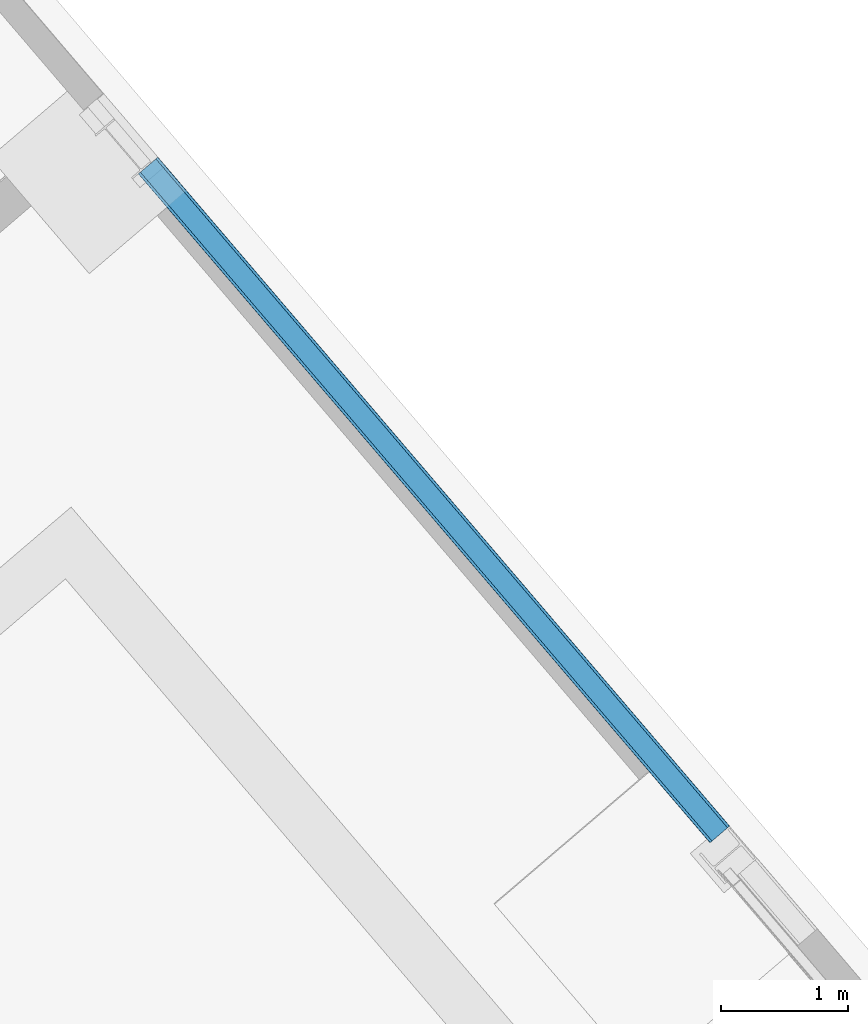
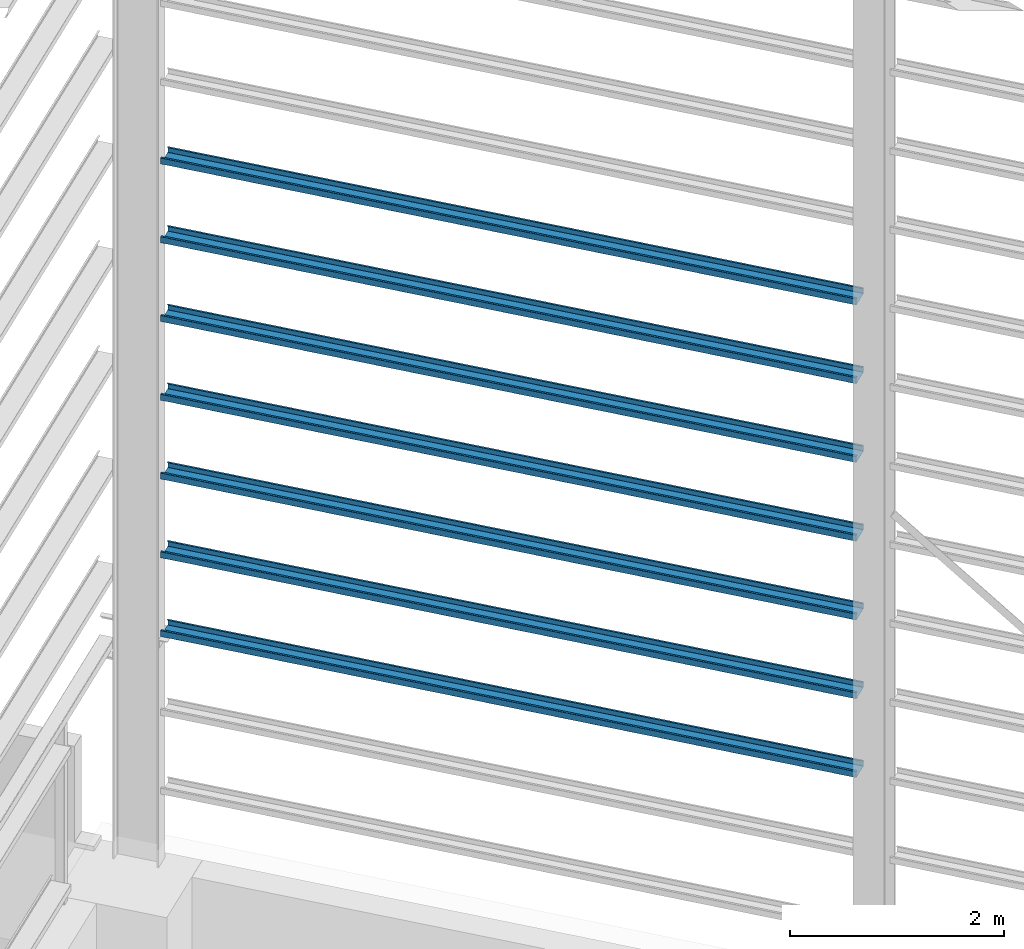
# One storey, part 30 of 41: 7 beams, 1 element without a shape of its own.
"""IFC2X3 building model written with IfcOpenShell, lengths in millimetres."""

from ifc_helpers import new_model, entity, si_unit, converted_unit, derived_unit, direction, frame, frame_2d, origin, place, context, subcontext, project, spatial, polyline, circle_curve, parameter, trimmed, segment, composite_curve, outline, extrude, material, type_object, element, aggregate, save


model = new_model("IFC2X3")

# Units and contexts
model_context = context("Model", 3, precision=0.01, world=origin(), true_north=direction((6.123031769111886e-17, 1.0)))
body_context = subcontext(model_context, "Body", "Model", "MODEL_VIEW")
ifc_project = project(units=[si_unit("LENGTHUNIT", "METRE", prefix="MILLI"), si_unit("AREAUNIT", "SQUARE_METRE"), si_unit("VOLUMEUNIT", "CUBIC_METRE"), converted_unit("PLANEANGLEUNIT", "DEGREE", entity("IfcRatioMeasure", 0.017453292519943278), si_unit("PLANEANGLEUNIT", "RADIAN"), dimensions=[0, 0, 0, 0, 0, 0, 0]), si_unit("MASSUNIT", "GRAM", prefix="KILO"), derived_unit("MASSDENSITYUNIT", [(si_unit("MASSUNIT", "GRAM", prefix="KILO"), 1), (si_unit("LENGTHUNIT", "METRE"), -3)]), derived_unit("MOMENTOFINERTIAUNIT", [(si_unit("LENGTHUNIT", "METRE"), 4)]), si_unit("TIMEUNIT", "SECOND"), si_unit("FREQUENCYUNIT", "HERTZ"), si_unit("THERMODYNAMICTEMPERATUREUNIT", "DEGREE_CELSIUS"), derived_unit("THERMALTRANSMITTANCEUNIT", [(si_unit("MASSUNIT", "GRAM", prefix="KILO"), 1), (si_unit("THERMODYNAMICTEMPERATUREUNIT", "KELVIN"), -1), (si_unit("TIMEUNIT", "SECOND"), -3)]), derived_unit("VOLUMETRICFLOWRATEUNIT", [(si_unit("LENGTHUNIT", "METRE"), 3), (si_unit("TIMEUNIT", "SECOND"), -1)]), derived_unit("MASSFLOWRATEUNIT", [(si_unit("MASSUNIT", "GRAM", prefix="KILO"), 1), (si_unit("TIMEUNIT", "SECOND"), -1)]), derived_unit("ROTATIONALFREQUENCYUNIT", [(si_unit("TIMEUNIT", "SECOND"), -1)]), si_unit("ELECTRICCURRENTUNIT", "AMPERE"), si_unit("ELECTRICVOLTAGEUNIT", "VOLT"), si_unit("POWERUNIT", "WATT"), si_unit("FORCEUNIT", "NEWTON", prefix="KILO"), si_unit("ILLUMINANCEUNIT", "LUX"), si_unit("LUMINOUSFLUXUNIT", "LUMEN"), si_unit("LUMINOUSINTENSITYUNIT", "CANDELA"), derived_unit("USERDEFINED", [(si_unit("MASSUNIT", "GRAM", prefix="KILO"), -1), (si_unit("LENGTHUNIT", "METRE"), -2), (si_unit("TIMEUNIT", "SECOND"), 3), (si_unit("LUMINOUSFLUXUNIT", "LUMEN"), 1)]), derived_unit("SOUNDPOWERUNIT", [(si_unit("MASSUNIT", "GRAM", prefix="KILO"), 1), (si_unit("LENGTHUNIT", "METRE"), 2), (si_unit("TIMEUNIT", "SECOND"), -3)]), derived_unit("LINEARVELOCITYUNIT", [(si_unit("LENGTHUNIT", "METRE"), 1), (si_unit("TIMEUNIT", "SECOND"), -1)]), si_unit("PRESSUREUNIT", "PASCAL"), derived_unit("USERDEFINED", [(si_unit("LENGTHUNIT", "METRE"), -2), (si_unit("MASSUNIT", "GRAM", prefix="KILO"), 1), (si_unit("TIMEUNIT", "SECOND"), -2)]), derived_unit("LINEARFORCEUNIT", [(si_unit("MASSUNIT", "GRAM", prefix="KILO"), 1), (si_unit("LENGTHUNIT", "METRE"), 1), (si_unit("TIMEUNIT", "SECOND"), -2), (si_unit("LENGTHUNIT", "METRE"), -1)]), derived_unit("PLANARFORCEUNIT", [(si_unit("MASSUNIT", "GRAM", prefix="KILO"), 1), (si_unit("LENGTHUNIT", "METRE"), 1), (si_unit("TIMEUNIT", "SECOND"), -2), (si_unit("LENGTHUNIT", "METRE"), -2)])], contexts=[model_context])

# Site, building, storey
site_placement = place(None, frame((962.4174930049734, -6014.433753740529, 0.0), z_axis=(0.0, 0.0, 1.0), x_axis=(0.7601792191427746, 0.649713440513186, 0.0)))
site = spatial("IfcSite", under=ifc_project, at=site_placement, Name="Default", CompositionType="ELEMENT")
building_placement = place(site_placement, origin())
building = spatial("IfcBuilding", under=site, at=building_placement, CompositionType="ELEMENT")
storey_placement = place(building_placement, origin())
storey = spatial("IfcBuildingStorey", under=building, at=storey_placement, Name="Datum", CompositionType="ELEMENT", Elevation=0.0)

# Assembly, beams
assembly_placement = place(building_placement, origin())
assembly = element("IfcElementAssembly", 1, at=assembly_placement, inside=storey, Name="Structural Beam System:Structural Beam System 1", ObjectType="Structural Beam System:Structural Beam System 1", AssemblyPlace="NOTDEFINED", PredefinedType="BEAM_GRID")
ifc_material = material(Name="Metal - Light Gauge")
beam_type = type_object("IfcBeamType", Name="ADSK_AUS_Light Gauge-Joists:C20015", PredefinedType="NOTDEFINED")
beam_1_placement = place(building_placement, frame((185748.56020470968, -3714.0905821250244, 7802.50358273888), z_axis=(0.0, 0.0, 1.0), x_axis=(0.0, 1.0, 0.0)))
beam_1 = element("IfcBeam", 2, at=beam_1_placement, type_object=beam_type, material=ifc_material, Name="ADSK_AUS_Light Gauge-Joists:C20015", ObjectType="ADSK_AUS_Light Gauge-Joists:C20015", context=body_context, shape_type="SweptSolid", body=[
    extrude(outline(composite_curve([segment(polyline([(-25.691849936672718, -101.50000000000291), (39.49184993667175, -101.50000000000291)]), True, "CONTINUOUS"), segment(trimmed(circle_curve(frame_2d((39.49184993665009, -98.8418499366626), x_axis=(0.0, -1.0)), 2.658150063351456), [parameter(0.0)], [parameter(89.99999999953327)], True, "PARAMETER"), True, "CONTINUOUS"), segment(polyline([(42.15000000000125, -98.8418499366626), (42.15000000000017, 98.84184993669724)]), True, "CONTINUOUS"), segment(trimmed(circle_curve(frame_2d((39.49184993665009, 98.84184993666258), x_axis=(1.0, 0.0)), 2.658150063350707), [parameter(0.0)], [parameter(89.99999999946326)], True, "PARAMETER"), True, "CONTINUOUS"), segment(polyline([(39.491849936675, 101.50000000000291), (-25.691849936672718, 101.50000000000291)]), True, "CONTINUOUS"), segment(trimmed(circle_curve(frame_2d((-25.691849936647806, 98.84184993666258), x_axis=(0.0, 1.0)), 2.658150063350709), [parameter(0.0)], [parameter(89.99999999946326)], True, "PARAMETER"), True, "CONTINUOUS"), segment(polyline([(-28.349999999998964, 98.84184993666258), (-28.349999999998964, 80.0)]), True, "CONTINUOUS"), segment(polyline([(-28.349999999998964, 80.0), (-26.849999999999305, 80.0)]), True, "CONTINUOUS"), segment(polyline([(-26.849999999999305, 80.0), (-26.849999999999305, 98.42934993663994)]), True, "CONTINUOUS"), segment(trimmed(circle_curve(frame_2d((-25.2793499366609, 98.4293499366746), x_axis=(-1.0, 0.0)), 1.570650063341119), [parameter(270.00000000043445)], [parameter(0.0)], True, "PARAMETER"), False, "CONTINUOUS"), segment(polyline([(-25.27934993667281, 100.0), (39.079349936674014, 100.0)]), True, "CONTINUOUS"), segment(trimmed(circle_curve(frame_2d((39.079349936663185, 98.4293499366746), x_axis=(0.0, 1.0)), 1.570650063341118), [parameter(270.00000000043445)], [parameter(0.0)], True, "PARAMETER"), False, "CONTINUOUS"), segment(polyline([(40.65000000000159, 98.4293499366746), (40.65000000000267, -98.4293499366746)]), True, "CONTINUOUS"), segment(trimmed(circle_curve(frame_2d((39.079349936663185, -98.4293499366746), x_axis=(1.0, 0.0)), 1.570650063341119), [parameter(270.00000000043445)], [parameter(0.0)], True, "PARAMETER"), False, "CONTINUOUS"), segment(polyline([(39.079349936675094, -100.0), (-25.27934993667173, -100.0)]), True, "CONTINUOUS"), segment(trimmed(circle_curve(frame_2d((-25.2793499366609, -98.4293499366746), x_axis=(0.0, -1.0)), 1.570650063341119), [parameter(270.00000000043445)], [parameter(0.0)], True, "PARAMETER"), False, "CONTINUOUS"), segment(polyline([(-26.849999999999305, -98.4293499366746), (-26.849999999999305, -80.0)]), True, "CONTINUOUS"), segment(polyline([(-26.849999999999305, -80.0), (-28.349999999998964, -80.0)]), True, "CONTINUOUS"), segment(polyline([(-28.349999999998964, -80.0), (-28.349999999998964, -98.84184993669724)]), True, "CONTINUOUS"), segment(trimmed(circle_curve(frame_2d((-25.691849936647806, -98.8418499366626), x_axis=(-1.0, 0.0)), 2.6581500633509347), [parameter(0.0)], [parameter(89.99999999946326)], True, "PARAMETER"), True, "CONTINUOUS")], self_intersect=False)), frame((13.03124998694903, -101.50000000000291, 42.15000000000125), z_axis=(1.0, 0.0, 0.0), x_axis=(0.0, 0.0, -1.0)), (0.0, 0.0, 1.0), 6906.0),
])
beam_2_placement = place(building_placement, frame((185748.56020470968, -3714.0905821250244, 6902.50358273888), z_axis=(0.0, 0.0, 1.0), x_axis=(0.0, 1.0, 0.0)))
beam_2 = element("IfcBeam", 3, at=beam_2_placement, type_object=beam_type, material=ifc_material, Name="ADSK_AUS_Light Gauge-Joists:C20015", ObjectType="ADSK_AUS_Light Gauge-Joists:C20015", context=body_context, shape_type="SweptSolid", body=[
    extrude(outline(composite_curve([segment(polyline([(-25.691849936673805, -101.50000000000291), (39.49184993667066, -101.50000000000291)]), True, "CONTINUOUS"), segment(trimmed(circle_curve(frame_2d((39.491849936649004, -98.8418499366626), x_axis=(0.0, -1.0)), 2.658150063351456), [parameter(0.0)], [parameter(89.99999999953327)], True, "PARAMETER"), True, "CONTINUOUS"), segment(polyline([(42.15000000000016, -98.8418499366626), (42.14999999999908, 98.84184993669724)]), True, "CONTINUOUS"), segment(trimmed(circle_curve(frame_2d((39.491849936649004, 98.84184993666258), x_axis=(1.0, 0.0)), 2.658150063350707), [parameter(0.0)], [parameter(89.99999999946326)], True, "PARAMETER"), True, "CONTINUOUS"), segment(polyline([(39.491849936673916, 101.50000000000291), (-25.691849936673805, 101.50000000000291)]), True, "CONTINUOUS"), segment(trimmed(circle_curve(frame_2d((-25.691849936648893, 98.84184993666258), x_axis=(0.0, 1.0)), 2.658150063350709), [parameter(0.0)], [parameter(89.99999999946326)], True, "PARAMETER"), True, "CONTINUOUS"), segment(polyline([(-28.35000000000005, 98.84184993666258), (-28.35000000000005, 80.0)]), True, "CONTINUOUS"), segment(polyline([(-28.35000000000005, 80.0), (-26.850000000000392, 80.0)]), True, "CONTINUOUS"), segment(polyline([(-26.850000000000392, 80.0), (-26.850000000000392, 98.42934993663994)]), True, "CONTINUOUS"), segment(trimmed(circle_curve(frame_2d((-25.279349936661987, 98.4293499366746), x_axis=(-1.0, 0.0)), 1.570650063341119), [parameter(270.00000000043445)], [parameter(0.0)], True, "PARAMETER"), False, "CONTINUOUS"), segment(polyline([(-25.279349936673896, 100.0), (39.079349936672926, 100.0)]), True, "CONTINUOUS"), segment(trimmed(circle_curve(frame_2d((39.0793499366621, 98.4293499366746), x_axis=(0.0, 1.0)), 1.570650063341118), [parameter(270.00000000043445)], [parameter(0.0)], True, "PARAMETER"), False, "CONTINUOUS"), segment(polyline([(40.6500000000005, 98.4293499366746), (40.65000000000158, -98.4293499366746)]), True, "CONTINUOUS"), segment(trimmed(circle_curve(frame_2d((39.0793499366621, -98.4293499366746), x_axis=(1.0, 0.0)), 1.570650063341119), [parameter(270.00000000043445)], [parameter(0.0)], True, "PARAMETER"), False, "CONTINUOUS"), segment(polyline([(39.07934993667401, -100.0), (-25.279349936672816, -100.0)]), True, "CONTINUOUS"), segment(trimmed(circle_curve(frame_2d((-25.279349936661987, -98.4293499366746), x_axis=(0.0, -1.0)), 1.570650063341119), [parameter(270.00000000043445)], [parameter(0.0)], True, "PARAMETER"), False, "CONTINUOUS"), segment(polyline([(-26.850000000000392, -98.4293499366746), (-26.850000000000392, -80.0)]), True, "CONTINUOUS"), segment(polyline([(-26.850000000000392, -80.0), (-28.35000000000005, -80.0)]), True, "CONTINUOUS"), segment(polyline([(-28.35000000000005, -80.0), (-28.35000000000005, -98.84184993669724)]), True, "CONTINUOUS"), segment(trimmed(circle_curve(frame_2d((-25.691849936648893, -98.8418499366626), x_axis=(-1.0, 0.0)), 2.6581500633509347), [parameter(0.0)], [parameter(89.99999999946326)], True, "PARAMETER"), True, "CONTINUOUS")], self_intersect=False)), frame((13.03124998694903, -101.50000000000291, 42.15000000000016), z_axis=(1.0, 0.0, 0.0), x_axis=(0.0, 0.0, -1.0)), (0.0, 0.0, 1.0), 6906.0),
])
beam_3_placement = place(building_placement, frame((185748.56020470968, -3714.0905821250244, 6002.50358273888), z_axis=(0.0, 0.0, 1.0), x_axis=(0.0, 1.0, 0.0)))
beam_3 = element("IfcBeam", 4, at=beam_3_placement, type_object=beam_type, material=ifc_material, Name="ADSK_AUS_Light Gauge-Joists:C20015", ObjectType="ADSK_AUS_Light Gauge-Joists:C20015", context=body_context, shape_type="SweptSolid", body=[
    extrude(outline(composite_curve([segment(polyline([(-25.691849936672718, -101.50000000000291), (39.49184993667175, -101.50000000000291)]), True, "CONTINUOUS"), segment(trimmed(circle_curve(frame_2d((39.49184993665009, -98.8418499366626), x_axis=(0.0, -1.0)), 2.658150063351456), [parameter(0.0)], [parameter(89.99999999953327)], True, "PARAMETER"), True, "CONTINUOUS"), segment(polyline([(42.15000000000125, -98.8418499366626), (42.15000000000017, 98.84184993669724)]), True, "CONTINUOUS"), segment(trimmed(circle_curve(frame_2d((39.49184993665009, 98.84184993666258), x_axis=(1.0, 0.0)), 2.658150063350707), [parameter(0.0)], [parameter(89.99999999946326)], True, "PARAMETER"), True, "CONTINUOUS"), segment(polyline([(39.491849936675, 101.50000000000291), (-25.691849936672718, 101.50000000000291)]), True, "CONTINUOUS"), segment(trimmed(circle_curve(frame_2d((-25.691849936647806, 98.84184993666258), x_axis=(0.0, 1.0)), 2.658150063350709), [parameter(0.0)], [parameter(89.99999999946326)], True, "PARAMETER"), True, "CONTINUOUS"), segment(polyline([(-28.349999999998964, 98.84184993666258), (-28.349999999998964, 80.0)]), True, "CONTINUOUS"), segment(polyline([(-28.349999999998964, 80.0), (-26.849999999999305, 80.0)]), True, "CONTINUOUS"), segment(polyline([(-26.849999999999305, 80.0), (-26.849999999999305, 98.42934993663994)]), True, "CONTINUOUS"), segment(trimmed(circle_curve(frame_2d((-25.2793499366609, 98.4293499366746), x_axis=(-1.0, 0.0)), 1.570650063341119), [parameter(270.00000000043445)], [parameter(0.0)], True, "PARAMETER"), False, "CONTINUOUS"), segment(polyline([(-25.27934993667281, 100.0), (39.079349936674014, 100.0)]), True, "CONTINUOUS"), segment(trimmed(circle_curve(frame_2d((39.079349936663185, 98.4293499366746), x_axis=(0.0, 1.0)), 1.570650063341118), [parameter(270.00000000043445)], [parameter(0.0)], True, "PARAMETER"), False, "CONTINUOUS"), segment(polyline([(40.65000000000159, 98.4293499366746), (40.65000000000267, -98.4293499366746)]), True, "CONTINUOUS"), segment(trimmed(circle_curve(frame_2d((39.079349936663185, -98.4293499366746), x_axis=(1.0, 0.0)), 1.570650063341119), [parameter(270.00000000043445)], [parameter(0.0)], True, "PARAMETER"), False, "CONTINUOUS"), segment(polyline([(39.079349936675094, -100.0), (-25.27934993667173, -100.0)]), True, "CONTINUOUS"), segment(trimmed(circle_curve(frame_2d((-25.2793499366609, -98.4293499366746), x_axis=(0.0, -1.0)), 1.570650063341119), [parameter(270.00000000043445)], [parameter(0.0)], True, "PARAMETER"), False, "CONTINUOUS"), segment(polyline([(-26.849999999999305, -98.4293499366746), (-26.849999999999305, -80.0)]), True, "CONTINUOUS"), segment(polyline([(-26.849999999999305, -80.0), (-28.349999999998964, -80.0)]), True, "CONTINUOUS"), segment(polyline([(-28.349999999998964, -80.0), (-28.349999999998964, -98.84184993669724)]), True, "CONTINUOUS"), segment(trimmed(circle_curve(frame_2d((-25.691849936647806, -98.8418499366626), x_axis=(-1.0, 0.0)), 2.6581500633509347), [parameter(0.0)], [parameter(89.99999999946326)], True, "PARAMETER"), True, "CONTINUOUS")], self_intersect=False)), frame((13.03124998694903, -101.50000000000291, 42.15000000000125), z_axis=(1.0, 0.0, 0.0), x_axis=(0.0, 0.0, -1.0)), (0.0, 0.0, 1.0), 6906.0),
])
beam_4_placement = place(building_placement, frame((185748.56020470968, -3714.0905821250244, 5102.50358273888), z_axis=(0.0, 0.0, 1.0), x_axis=(0.0, 1.0, 0.0)))
beam_4 = element("IfcBeam", 5, at=beam_4_placement, type_object=beam_type, material=ifc_material, Name="ADSK_AUS_Light Gauge-Joists:C20015", ObjectType="ADSK_AUS_Light Gauge-Joists:C20015", context=body_context, shape_type="SweptSolid", body=[
    extrude(outline(composite_curve([segment(polyline([(-25.691849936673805, -101.50000000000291), (39.49184993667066, -101.50000000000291)]), True, "CONTINUOUS"), segment(trimmed(circle_curve(frame_2d((39.491849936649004, -98.8418499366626), x_axis=(0.0, -1.0)), 2.658150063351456), [parameter(0.0)], [parameter(89.99999999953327)], True, "PARAMETER"), True, "CONTINUOUS"), segment(polyline([(42.15000000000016, -98.8418499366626), (42.14999999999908, 98.84184993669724)]), True, "CONTINUOUS"), segment(trimmed(circle_curve(frame_2d((39.491849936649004, 98.84184993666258), x_axis=(1.0, 0.0)), 2.658150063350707), [parameter(0.0)], [parameter(89.99999999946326)], True, "PARAMETER"), True, "CONTINUOUS"), segment(polyline([(39.491849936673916, 101.50000000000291), (-25.691849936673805, 101.50000000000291)]), True, "CONTINUOUS"), segment(trimmed(circle_curve(frame_2d((-25.691849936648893, 98.84184993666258), x_axis=(0.0, 1.0)), 2.658150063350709), [parameter(0.0)], [parameter(89.99999999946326)], True, "PARAMETER"), True, "CONTINUOUS"), segment(polyline([(-28.35000000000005, 98.84184993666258), (-28.35000000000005, 80.0)]), True, "CONTINUOUS"), segment(polyline([(-28.35000000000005, 80.0), (-26.850000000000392, 80.0)]), True, "CONTINUOUS"), segment(polyline([(-26.850000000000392, 80.0), (-26.850000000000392, 98.42934993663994)]), True, "CONTINUOUS"), segment(trimmed(circle_curve(frame_2d((-25.279349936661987, 98.4293499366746), x_axis=(-1.0, 0.0)), 1.570650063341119), [parameter(270.00000000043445)], [parameter(0.0)], True, "PARAMETER"), False, "CONTINUOUS"), segment(polyline([(-25.279349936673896, 100.0), (39.079349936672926, 100.0)]), True, "CONTINUOUS"), segment(trimmed(circle_curve(frame_2d((39.0793499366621, 98.4293499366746), x_axis=(0.0, 1.0)), 1.570650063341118), [parameter(270.00000000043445)], [parameter(0.0)], True, "PARAMETER"), False, "CONTINUOUS"), segment(polyline([(40.6500000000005, 98.4293499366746), (40.65000000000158, -98.4293499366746)]), True, "CONTINUOUS"), segment(trimmed(circle_curve(frame_2d((39.0793499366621, -98.4293499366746), x_axis=(1.0, 0.0)), 1.570650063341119), [parameter(270.00000000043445)], [parameter(0.0)], True, "PARAMETER"), False, "CONTINUOUS"), segment(polyline([(39.07934993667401, -100.0), (-25.279349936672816, -100.0)]), True, "CONTINUOUS"), segment(trimmed(circle_curve(frame_2d((-25.279349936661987, -98.4293499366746), x_axis=(0.0, -1.0)), 1.570650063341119), [parameter(270.00000000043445)], [parameter(0.0)], True, "PARAMETER"), False, "CONTINUOUS"), segment(polyline([(-26.850000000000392, -98.4293499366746), (-26.850000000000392, -80.0)]), True, "CONTINUOUS"), segment(polyline([(-26.850000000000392, -80.0), (-28.35000000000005, -80.0)]), True, "CONTINUOUS"), segment(polyline([(-28.35000000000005, -80.0), (-28.35000000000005, -98.84184993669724)]), True, "CONTINUOUS"), segment(trimmed(circle_curve(frame_2d((-25.691849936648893, -98.8418499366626), x_axis=(-1.0, 0.0)), 2.6581500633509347), [parameter(0.0)], [parameter(89.99999999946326)], True, "PARAMETER"), True, "CONTINUOUS")], self_intersect=False)), frame((13.03124998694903, -101.50000000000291, 42.15000000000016), z_axis=(1.0, 0.0, 0.0), x_axis=(0.0, 0.0, -1.0)), (0.0, 0.0, 1.0), 6906.0),
])
beam_5_placement = place(building_placement, frame((185748.56020470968, -3714.0905821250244, 4202.50358273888), z_axis=(0.0, 0.0, 1.0), x_axis=(0.0, 1.0, 0.0)))
beam_5 = element("IfcBeam", 6, at=beam_5_placement, type_object=beam_type, material=ifc_material, Name="ADSK_AUS_Light Gauge-Joists:C20015", ObjectType="ADSK_AUS_Light Gauge-Joists:C20015", context=body_context, shape_type="SweptSolid", body=[
    extrude(outline(composite_curve([segment(polyline([(-25.691849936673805, -101.50000000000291), (39.49184993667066, -101.50000000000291)]), True, "CONTINUOUS"), segment(trimmed(circle_curve(frame_2d((39.491849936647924, -98.8418499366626), x_axis=(0.0, -1.0)), 2.6581500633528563), [parameter(0.0)], [parameter(89.99999999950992)], True, "PARAMETER"), True, "CONTINUOUS"), segment(polyline([(42.1500000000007, -98.8418499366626), (42.15000000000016, 98.84184993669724)]), True, "CONTINUOUS"), segment(trimmed(circle_curve(frame_2d((39.491849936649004, 98.84184993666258), x_axis=(1.0, 0.0)), 2.658150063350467), [parameter(0.0)], [parameter(89.99999999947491)], True, "PARAMETER"), True, "CONTINUOUS"), segment(polyline([(39.49184993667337, 101.50000000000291), (-25.691849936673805, 101.50000000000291)]), True, "CONTINUOUS"), segment(trimmed(circle_curve(frame_2d((-25.691849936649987, 98.84184993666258), x_axis=(0.0, 1.0)), 2.6581500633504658), [parameter(0.0)], [parameter(89.99999999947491)], True, "PARAMETER"), True, "CONTINUOUS"), segment(polyline([(-28.35000000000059, 98.84184993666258), (-28.35000000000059, 80.0)]), True, "CONTINUOUS"), segment(polyline([(-28.35000000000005, 80.0), (-26.849999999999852, 80.0)]), True, "CONTINUOUS"), segment(polyline([(-26.849999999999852, 80.0), (-26.849999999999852, 98.42934993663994)]), True, "CONTINUOUS"), segment(trimmed(circle_curve(frame_2d((-25.279349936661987, 98.4293499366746), x_axis=(-1.0, 0.0)), 1.570650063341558), [parameter(270.0000000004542)], [parameter(0.0)], True, "PARAMETER"), False, "CONTINUOUS"), segment(polyline([(-25.279349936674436, 100.0), (39.079349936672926, 100.0)]), True, "CONTINUOUS"), segment(trimmed(circle_curve(frame_2d((39.07934993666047, 98.4293499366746), x_axis=(0.0, 1.0)), 1.57065006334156), [parameter(270.0000000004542)], [parameter(0.0)], True, "PARAMETER"), False, "CONTINUOUS"), segment(polyline([(40.64999999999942, 98.4293499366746), (40.64999999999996, -98.4293499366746)]), True, "CONTINUOUS"), segment(trimmed(circle_curve(frame_2d((39.07934993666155, -98.4293499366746), x_axis=(1.0, 0.0)), 1.5706500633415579), [parameter(270.0000000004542)], [parameter(0.0)], True, "PARAMETER"), False, "CONTINUOUS"), segment(polyline([(39.07934993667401, -100.0), (-25.279349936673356, -100.0)]), True, "CONTINUOUS"), segment(trimmed(circle_curve(frame_2d((-25.279349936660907, -98.4293499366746), x_axis=(0.0, -1.0)), 1.5706500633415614), [parameter(270.0000000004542)], [parameter(0.0)], True, "PARAMETER"), False, "CONTINUOUS"), segment(polyline([(-26.849999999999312, -98.4293499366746), (-26.849999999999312, -80.0)]), True, "CONTINUOUS"), segment(polyline([(-26.849999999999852, -80.0), (-28.35000000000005, -80.0)]), True, "CONTINUOUS"), segment(polyline([(-28.35000000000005, -80.0), (-28.35000000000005, -98.84184993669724)]), True, "CONTINUOUS"), segment(trimmed(circle_curve(frame_2d((-25.691849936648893, -98.8418499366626), x_axis=(-1.0, 0.0)), 2.6581500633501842), [parameter(0.0)], [parameter(89.99999999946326)], True, "PARAMETER"), True, "CONTINUOUS")], self_intersect=False)), frame((13.03124998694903, -101.50000000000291, 42.15000000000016), z_axis=(1.0, 0.0, 0.0), x_axis=(0.0, 0.0, -1.0)), (0.0, 0.0, 1.0), 6906.0),
])
beam_6_placement = place(building_placement, frame((185748.56020470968, -3714.0905821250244, 3302.50358273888), z_axis=(0.0, 0.0, 1.0), x_axis=(0.0, 1.0, 0.0)))
beam_6 = element("IfcBeam", 7, at=beam_6_placement, type_object=beam_type, material=ifc_material, Name="ADSK_AUS_Light Gauge-Joists:C20015", ObjectType="ADSK_AUS_Light Gauge-Joists:C20015", context=body_context, shape_type="SweptSolid", body=[
    extrude(outline(composite_curve([segment(polyline([(-25.691849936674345, -101.50000000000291), (39.49184993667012, -101.50000000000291)]), True, "CONTINUOUS"), segment(trimmed(circle_curve(frame_2d((39.491849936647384, -98.8418499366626), x_axis=(0.0, -1.0)), 2.6581500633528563), [parameter(0.0)], [parameter(89.99999999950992)], True, "PARAMETER"), True, "CONTINUOUS"), segment(polyline([(42.15000000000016, -98.8418499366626), (42.14999999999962, 98.84184993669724)]), True, "CONTINUOUS"), segment(trimmed(circle_curve(frame_2d((39.491849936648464, 98.84184993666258), x_axis=(1.0, 0.0)), 2.658150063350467), [parameter(0.0)], [parameter(89.99999999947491)], True, "PARAMETER"), True, "CONTINUOUS"), segment(polyline([(39.49184993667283, 101.50000000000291), (-25.691849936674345, 101.50000000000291)]), True, "CONTINUOUS"), segment(trimmed(circle_curve(frame_2d((-25.691849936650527, 98.84184993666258), x_axis=(0.0, 1.0)), 2.6581500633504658), [parameter(0.0)], [parameter(89.99999999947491)], True, "PARAMETER"), True, "CONTINUOUS"), segment(polyline([(-28.35000000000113, 98.84184993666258), (-28.35000000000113, 80.0)]), True, "CONTINUOUS"), segment(polyline([(-28.35000000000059, 80.0), (-26.850000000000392, 80.0)]), True, "CONTINUOUS"), segment(polyline([(-26.850000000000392, 80.0), (-26.850000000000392, 98.42934993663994)]), True, "CONTINUOUS"), segment(trimmed(circle_curve(frame_2d((-25.279349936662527, 98.4293499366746), x_axis=(-1.0, 0.0)), 1.570650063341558), [parameter(270.0000000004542)], [parameter(0.0)], True, "PARAMETER"), False, "CONTINUOUS"), segment(polyline([(-25.279349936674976, 100.0), (39.079349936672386, 100.0)]), True, "CONTINUOUS"), segment(trimmed(circle_curve(frame_2d((39.07934993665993, 98.4293499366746), x_axis=(0.0, 1.0)), 1.57065006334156), [parameter(270.0000000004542)], [parameter(0.0)], True, "PARAMETER"), False, "CONTINUOUS"), segment(polyline([(40.64999999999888, 98.4293499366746), (40.64999999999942, -98.4293499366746)]), True, "CONTINUOUS"), segment(trimmed(circle_curve(frame_2d((39.07934993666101, -98.4293499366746), x_axis=(1.0, 0.0)), 1.5706500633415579), [parameter(270.0000000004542)], [parameter(0.0)], True, "PARAMETER"), False, "CONTINUOUS"), segment(polyline([(39.07934993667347, -100.0), (-25.279349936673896, -100.0)]), True, "CONTINUOUS"), segment(trimmed(circle_curve(frame_2d((-25.279349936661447, -98.4293499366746), x_axis=(0.0, -1.0)), 1.5706500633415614), [parameter(270.0000000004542)], [parameter(0.0)], True, "PARAMETER"), False, "CONTINUOUS"), segment(polyline([(-26.849999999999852, -98.4293499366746), (-26.849999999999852, -80.0)]), True, "CONTINUOUS"), segment(polyline([(-26.850000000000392, -80.0), (-28.35000000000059, -80.0)]), True, "CONTINUOUS"), segment(polyline([(-28.35000000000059, -80.0), (-28.35000000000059, -98.84184993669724)]), True, "CONTINUOUS"), segment(trimmed(circle_curve(frame_2d((-25.691849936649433, -98.8418499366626), x_axis=(-1.0, 0.0)), 2.6581500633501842), [parameter(0.0)], [parameter(89.99999999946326)], True, "PARAMETER"), True, "CONTINUOUS")], self_intersect=False)), frame((13.03124998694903, -101.50000000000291, 42.14999999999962), z_axis=(1.0, 0.0, 0.0), x_axis=(0.0, 0.0, -1.0)), (0.0, 0.0, 1.0), 6906.0),
])
beam_7_placement = place(building_placement, frame((185748.56020470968, -3714.0905821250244, 2402.50358273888), z_axis=(0.0, 0.0, 1.0), x_axis=(0.0, 1.0, 0.0)))
beam_7 = element("IfcBeam", 8, at=beam_7_placement, type_object=beam_type, material=ifc_material, Name="ADSK_AUS_Light Gauge-Joists:C20015", ObjectType="ADSK_AUS_Light Gauge-Joists:C20015", context=body_context, shape_type="SweptSolid", body=[
    extrude(outline(composite_curve([segment(polyline([(-25.691849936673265, -101.50000000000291), (39.4918499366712, -101.50000000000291)]), True, "CONTINUOUS"), segment(trimmed(circle_curve(frame_2d((39.491849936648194, -98.8418499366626), x_axis=(0.0, -1.0)), 2.658150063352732), [parameter(0.0)], [parameter(89.99999999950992)], True, "PARAMETER"), True, "CONTINUOUS"), segment(polyline([(42.15000000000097, -98.8418499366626), (42.15000000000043, 98.84184993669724)]), True, "CONTINUOUS"), segment(trimmed(circle_curve(frame_2d((39.491849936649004, 98.84184993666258), x_axis=(1.0, 0.0)), 2.6581500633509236), [parameter(0.0)], [parameter(89.99999999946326)], True, "PARAMETER"), True, "CONTINUOUS"), segment(polyline([(39.49184993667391, 101.50000000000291), (-25.691849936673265, 101.50000000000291)]), True, "CONTINUOUS"), segment(trimmed(circle_curve(frame_2d((-25.691849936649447, 98.84184993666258), x_axis=(0.0, 1.0)), 2.6581500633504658), [parameter(0.0)], [parameter(89.99999999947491)], True, "PARAMETER"), True, "CONTINUOUS"), segment(polyline([(-28.35000000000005, 98.84184993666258), (-28.35000000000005, 80.0)]), True, "CONTINUOUS"), segment(polyline([(-28.34999999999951, 80.0), (-26.849999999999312, 80.0)]), True, "CONTINUOUS"), segment(polyline([(-26.849999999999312, 80.0), (-26.849999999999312, 98.42934993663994)]), True, "CONTINUOUS"), segment(trimmed(circle_curve(frame_2d((-25.279349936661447, 98.4293499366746), x_axis=(-1.0, 0.0)), 1.570650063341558), [parameter(270.0000000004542)], [parameter(0.0)], True, "PARAMETER"), False, "CONTINUOUS"), segment(polyline([(-25.279349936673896, 100.0), (39.07934993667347, 100.0)]), True, "CONTINUOUS"), segment(trimmed(circle_curve(frame_2d((39.07934993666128, 98.4293499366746), x_axis=(0.0, 1.0)), 1.5706500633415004), [parameter(270.00000000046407)], [parameter(0.0)], True, "PARAMETER"), False, "CONTINUOUS"), segment(polyline([(40.6500000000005, 98.4293499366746), (40.65000000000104, -98.4293499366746)]), True, "CONTINUOUS"), segment(trimmed(circle_curve(frame_2d((39.07934993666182, -98.4293499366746), x_axis=(1.0, 0.0)), 1.5706500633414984), [parameter(270.00000000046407)], [parameter(0.0)], True, "PARAMETER"), False, "CONTINUOUS"), segment(polyline([(39.07934993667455, -100.0), (-25.279349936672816, -100.0)]), True, "CONTINUOUS"), segment(trimmed(circle_curve(frame_2d((-25.279349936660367, -98.4293499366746), x_axis=(0.0, -1.0)), 1.5706500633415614), [parameter(270.0000000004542)], [parameter(0.0)], True, "PARAMETER"), False, "CONTINUOUS"), segment(polyline([(-26.849999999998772, -98.4293499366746), (-26.849999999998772, -80.0)]), True, "CONTINUOUS"), segment(polyline([(-26.849999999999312, -80.0), (-28.34999999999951, -80.0)]), True, "CONTINUOUS"), segment(polyline([(-28.34999999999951, -80.0), (-28.34999999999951, -98.84184993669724)]), True, "CONTINUOUS"), segment(trimmed(circle_curve(frame_2d((-25.691849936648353, -98.8418499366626), x_axis=(-1.0, 0.0)), 2.6581500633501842), [parameter(0.0)], [parameter(89.99999999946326)], True, "PARAMETER"), True, "CONTINUOUS")], self_intersect=False)), frame((13.03124998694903, -101.50000000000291, 42.1500000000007), z_axis=(1.0, 0.0, 0.0), x_axis=(0.0, 0.0, -1.0)), (0.0, 0.0, 1.0), 6906.0),
])
aggregate(assembly, [beam_1, beam_2, beam_3, beam_4, beam_5, beam_6, beam_7])

save(model, "model.ifc")
